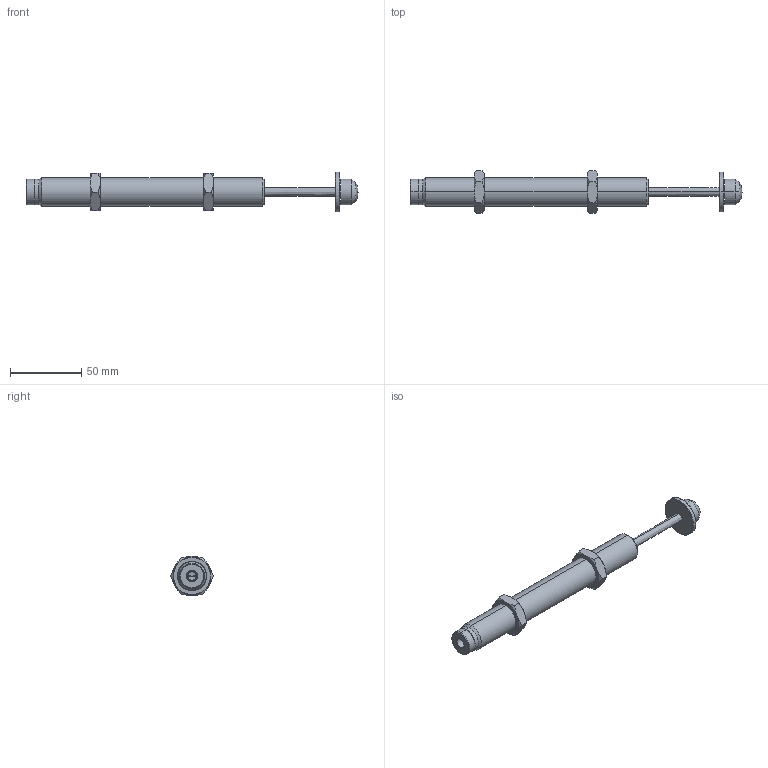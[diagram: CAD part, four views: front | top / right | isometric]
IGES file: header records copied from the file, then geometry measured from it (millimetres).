
Start section: SolidWorks IGES file using analytic representation for surfaces
Global section: file name: D:\IGS跡宒\AC2050(DT)-SH.IGS,1; native system: 5HSolidWorks 2013; preprocessor: SolidWorks 2013; author: Administrator; date: 160406.152146; units: inch
Bounding box: 232.78 x 30.02 x 28 mm (x, y, z)
Surface area: 18287.2 mm2 (no closed solid volume)
Topology: 0 solids, 0 shells, 101 faces, 1516 edges, 1515 vertices
Faces by surface type: revolution 78, bspline 23
